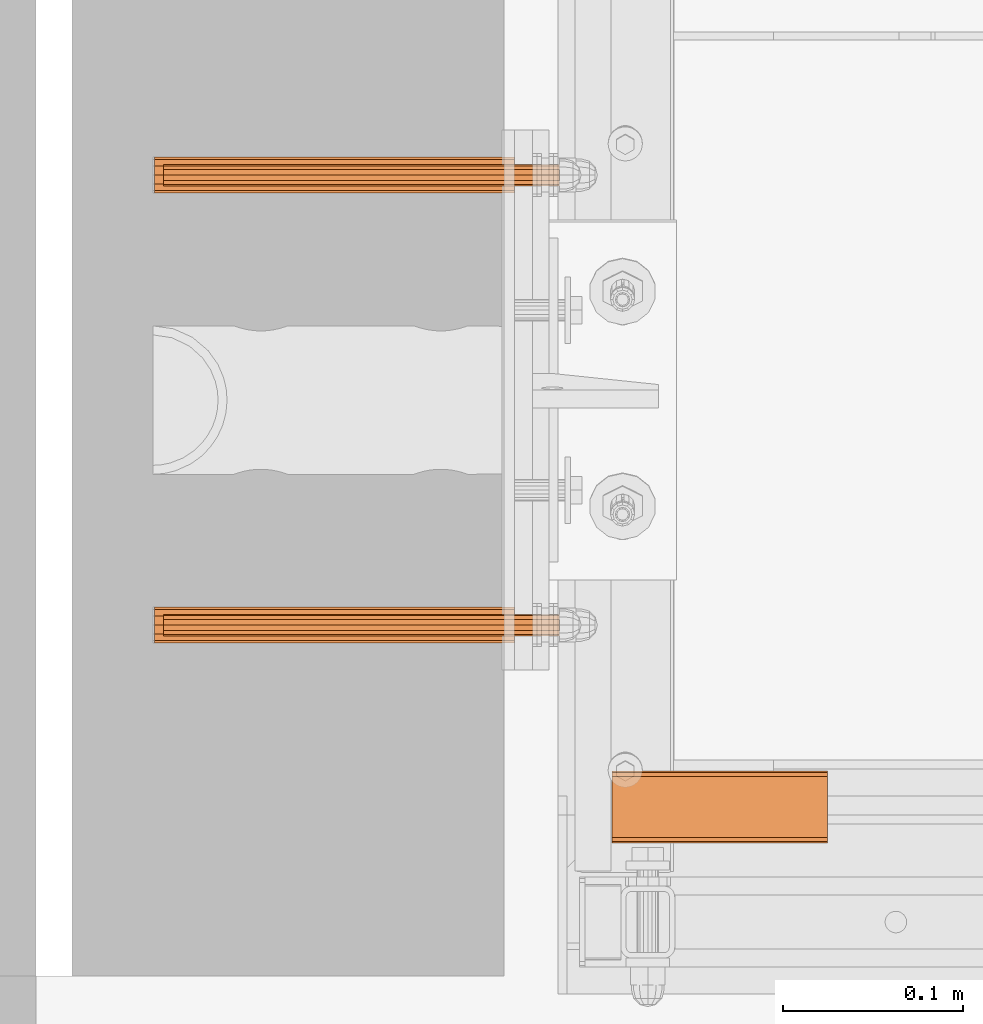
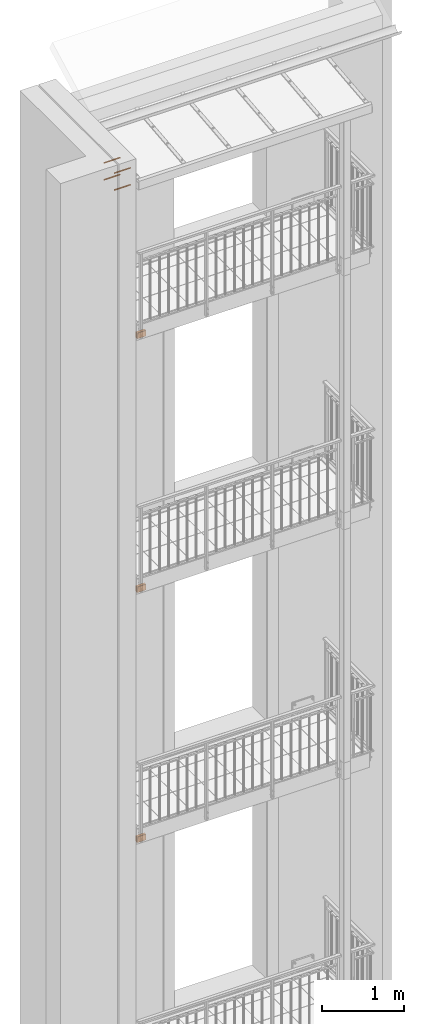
# One storey, part 78 of 162: 11 proxies.
"""IFC2X3 building model written with IfcOpenShell, lengths in millimetres."""

from ifc_helpers import new_model, entity, si_unit, converted_unit, origin_with_axes, place, context, project, spatial, faceted_brep, material, element, save


model = new_model("IFC2X3")

# Units and contexts
model_context = context("Model", 3, precision=1e-09, world=origin_with_axes())
ifc_project = project(units=[si_unit("LENGTHUNIT", "METRE", prefix="MILLI"), si_unit("AREAUNIT", "SQUARE_METRE"), si_unit("VOLUMEUNIT", "CUBIC_METRE"), converted_unit("PLANEANGLEUNIT", "DEGREE", entity("IfcPlaneAngleMeasure", 0.01745329), si_unit("PLANEANGLEUNIT", "RADIAN"), dimensions=[0, 0, 0, 0, 0, 0, 0])], contexts=[model_context])

# Site, building, storey
site_placement = place(None, origin_with_axes())
site = spatial("IfcSite", under=ifc_project, at=site_placement, Name="Hermannstra?e 1a, 60318 Frankfurt", CompositionType="ELEMENT")
building_placement = place(site_placement, origin_with_axes())
building = spatial("IfcBuilding", under=site, at=building_placement, Name="Struktur 1", CompositionType="ELEMENT")
storey_placement = place(building_placement, origin_with_axes())
storey = spatial("IfcBuildingStorey", under=building, at=storey_placement, Name="Default Storey", CompositionType="ELEMENT", Elevation=0.0)

# Proxies
ifc_material_1 = material(Name="Alu")
proxy_1_placement = place(None, origin_with_axes())
element("IfcBuildingElementProxy", 1, at=proxy_1_placement, inside=storey, material=ifc_material_1, ObjectType="-", context=model_context, shape_type="Brep", body=[
    faceted_brep([(2703.30936482, 1596.609373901, 7555.803847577), (2703.30936482, 1598.805526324, 7558.0), (2703.30936482, 1599.609373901, 7561.0), (2703.30936482, 1599.609373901, 7639.0), (2703.30936482, 1598.805526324, 7642.0), (2703.30936482, 1596.609373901, 7644.196152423), (2703.30936482, 1593.609373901, 7645.0), (2703.30936482, 1565.609373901, 7645.0), (2703.30936482, 1562.609373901, 7644.196152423), (2703.30936482, 1560.413221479, 7642.0), (2703.30936482, 1559.609373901, 7639.0), (2703.30936482, 1559.609373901, 7561.0), (2703.30936482, 1560.413221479, 7558.0), (2703.30936482, 1562.609373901, 7555.803847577), (2703.30936482, 1565.609373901, 7555.0), (2703.30936482, 1593.609373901, 7555.0), (2703.30936482, 1596.609373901, 7561.0), (2703.30936482, 1596.207450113, 7559.5), (2703.30936482, 1595.109373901, 7558.401923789), (2703.30936482, 1593.609373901, 7558.0), (2703.30936482, 1565.609373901, 7558.0), (2703.30936482, 1564.109373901, 7558.401923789), (2703.30936482, 1563.01129769, 7559.5), (2703.30936482, 1562.609373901, 7561.0), (2703.30936482, 1562.609373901, 7639.0), (2703.30936482, 1563.01129769, 7640.5), (2703.30936482, 1564.109373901, 7641.598076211), (2703.30936482, 1565.609373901, 7642.0), (2703.30936482, 1593.609373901, 7642.0), (2703.30936482, 1595.109373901, 7641.598076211), (2703.30936482, 1596.207450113, 7640.5), (2703.30936482, 1596.609373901, 7639.0), (2583.30936482, 1596.609373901, 7561.0), (2583.30936482, 1596.207450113, 7559.5), (2583.30936482, 1599.609373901, 7561.0), (2583.30936482, 1598.805526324, 7558.0), (2583.30936482, 1598.805526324, 7642.0), (2583.30936482, 1599.609373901, 7639.0), (2583.30936482, 1596.609373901, 7555.803847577), (2583.30936482, 1593.609373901, 7555.0), (2583.30936482, 1565.609373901, 7555.0), (2583.30936482, 1562.609373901, 7555.803847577), (2583.30936482, 1560.413221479, 7558.0), (2583.30936482, 1559.609373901, 7561.0), (2583.30936482, 1559.609373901, 7639.0), (2583.30936482, 1560.413221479, 7642.0), (2583.30936482, 1562.609373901, 7644.196152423), (2583.30936482, 1565.609373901, 7645.0), (2583.30936482, 1593.609373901, 7645.0), (2583.30936482, 1596.609373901, 7644.196152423), (2583.30936482, 1596.609373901, 7639.0), (2583.30936482, 1596.207450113, 7640.5), (2583.30936482, 1595.109373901, 7641.598076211), (2583.30936482, 1593.609373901, 7642.0), (2583.30936482, 1565.609373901, 7642.0), (2583.30936482, 1564.109373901, 7641.598076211), (2583.30936482, 1563.01129769, 7640.5), (2583.30936482, 1562.609373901, 7639.0), (2583.30936482, 1562.609373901, 7561.0), (2583.30936482, 1563.01129769, 7559.5), (2583.30936482, 1564.109373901, 7558.401923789), (2583.30936482, 1565.609373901, 7558.0), (2583.30936482, 1593.609373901, 7558.0), (2583.30936482, 1595.109373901, 7558.401923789)], [[[0, 1, 2, 3, 4, 5, 6, 7, 8, 9, 10, 11, 12, 13, 14, 15], [16, 17, 18, 19, 20, 21, 22, 23, 24, 25, 26, 27, 28, 29, 30, 31]], [[16, 32, 33, 17]], [[34, 2, 1, 35]], [[36, 37, 34, 35, 38, 39, 40, 41, 42, 43, 44, 45, 46, 47, 48, 49], [50, 51, 52, 53, 54, 55, 56, 57, 58, 59, 60, 61, 62, 63, 33, 32]], [[16, 31, 50, 32]], [[34, 37, 3, 2]], [[3, 37, 36, 4]], [[17, 33, 63, 18]], [[35, 1, 0, 38]], [[50, 31, 30, 51]], [[4, 36, 49, 5]], [[18, 63, 62, 19]], [[38, 0, 15, 39]], [[51, 30, 29, 52]], [[5, 49, 48, 6]], [[62, 61, 20, 19]], [[15, 14, 40, 39]], [[52, 29, 28, 53]], [[48, 47, 7, 6]], [[28, 27, 54, 53]], [[20, 61, 60, 21]], [[40, 14, 13, 41]], [[7, 47, 46, 8]], [[54, 27, 26, 55]], [[21, 60, 59, 22]], [[41, 13, 12, 42]], [[11, 43, 42, 12]], [[8, 46, 45, 9]], [[55, 26, 25, 56]], [[22, 59, 58, 23]], [[11, 10, 44, 43]], [[24, 57, 56, 25]], [[24, 23, 58, 57]], [[9, 45, 44, 10]]]),
])
proxy_2_placement = place(None, origin_with_axes())
element("IfcBuildingElementProxy", 2, at=proxy_2_placement, inside=storey, material=ifc_material_1, ObjectType="-", context=model_context, shape_type="Brep", body=[
    faceted_brep([(2703.30936482, 1596.609373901, 11255.802847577), (2703.30936482, 1598.805526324, 11257.999), (2703.30936482, 1599.609373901, 11260.999), (2703.30936482, 1599.609373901, 11338.999), (2703.30936482, 1598.805526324, 11341.999), (2703.30936482, 1596.609373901, 11344.195152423), (2703.30936482, 1593.609373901, 11344.999), (2703.30936482, 1565.609373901, 11344.999), (2703.30936482, 1562.609373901, 11344.195152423), (2703.30936482, 1560.413221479, 11341.999), (2703.30936482, 1559.609373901, 11338.999), (2703.30936482, 1559.609373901, 11260.999), (2703.30936482, 1560.413221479, 11257.999), (2703.30936482, 1562.609373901, 11255.802847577), (2703.30936482, 1565.609373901, 11254.999), (2703.30936482, 1593.609373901, 11254.999), (2703.30936482, 1596.609373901, 11260.999), (2703.30936482, 1596.207450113, 11259.499), (2703.30936482, 1595.109373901, 11258.400923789), (2703.30936482, 1593.609373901, 11257.999), (2703.30936482, 1565.609373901, 11257.999), (2703.30936482, 1564.109373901, 11258.400923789), (2703.30936482, 1563.01129769, 11259.499), (2703.30936482, 1562.609373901, 11260.999), (2703.30936482, 1562.609373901, 11338.999), (2703.30936482, 1563.01129769, 11340.499), (2703.30936482, 1564.109373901, 11341.597076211), (2703.30936482, 1565.609373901, 11341.999), (2703.30936482, 1593.609373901, 11341.999), (2703.30936482, 1595.109373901, 11341.597076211), (2703.30936482, 1596.207450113, 11340.499), (2703.30936482, 1596.609373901, 11338.999), (2583.30936482, 1596.609373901, 11260.999), (2583.30936482, 1596.207450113, 11259.499), (2583.30936482, 1599.609373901, 11260.999), (2583.30936482, 1598.805526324, 11257.999), (2583.30936482, 1598.805526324, 11341.999), (2583.30936482, 1599.609373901, 11338.999), (2583.30936482, 1596.609373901, 11255.802847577), (2583.30936482, 1593.609373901, 11254.999), (2583.30936482, 1565.609373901, 11254.999), (2583.30936482, 1562.609373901, 11255.802847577), (2583.30936482, 1560.413221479, 11257.999), (2583.30936482, 1559.609373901, 11260.999), (2583.30936482, 1559.609373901, 11338.999), (2583.30936482, 1560.413221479, 11341.999), (2583.30936482, 1562.609373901, 11344.195152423), (2583.30936482, 1565.609373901, 11344.999), (2583.30936482, 1593.609373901, 11344.999), (2583.30936482, 1596.609373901, 11344.195152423), (2583.30936482, 1596.609373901, 11338.999), (2583.30936482, 1596.207450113, 11340.499), (2583.30936482, 1595.109373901, 11341.597076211), (2583.30936482, 1593.609373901, 11341.999), (2583.30936482, 1565.609373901, 11341.999), (2583.30936482, 1564.109373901, 11341.597076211), (2583.30936482, 1563.01129769, 11340.499), (2583.30936482, 1562.609373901, 11338.999), (2583.30936482, 1562.609373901, 11260.999), (2583.30936482, 1563.01129769, 11259.499), (2583.30936482, 1564.109373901, 11258.400923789), (2583.30936482, 1565.609373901, 11257.999), (2583.30936482, 1593.609373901, 11257.999), (2583.30936482, 1595.109373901, 11258.400923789)], [[[0, 1, 2, 3, 4, 5, 6, 7, 8, 9, 10, 11, 12, 13, 14, 15], [16, 17, 18, 19, 20, 21, 22, 23, 24, 25, 26, 27, 28, 29, 30, 31]], [[16, 32, 33, 17]], [[34, 2, 1, 35]], [[36, 37, 34, 35, 38, 39, 40, 41, 42, 43, 44, 45, 46, 47, 48, 49], [50, 51, 52, 53, 54, 55, 56, 57, 58, 59, 60, 61, 62, 63, 33, 32]], [[16, 31, 50, 32]], [[34, 37, 3, 2]], [[3, 37, 36, 4]], [[17, 33, 63, 18]], [[35, 1, 0, 38]], [[50, 31, 30, 51]], [[4, 36, 49, 5]], [[18, 63, 62, 19]], [[38, 0, 15, 39]], [[51, 30, 29, 52]], [[5, 49, 48, 6]], [[62, 61, 20, 19]], [[15, 14, 40, 39]], [[52, 29, 28, 53]], [[48, 47, 7, 6]], [[28, 27, 54, 53]], [[20, 61, 60, 21]], [[40, 14, 13, 41]], [[7, 47, 46, 8]], [[54, 27, 26, 55]], [[21, 60, 59, 22]], [[41, 13, 12, 42]], [[11, 43, 42, 12]], [[8, 46, 45, 9]], [[55, 26, 25, 56]], [[22, 59, 58, 23]], [[11, 10, 44, 43]], [[24, 57, 56, 25]], [[24, 23, 58, 57]], [[9, 45, 44, 10]]]),
])
proxy_3_placement = place(None, origin_with_axes())
element("IfcBuildingElementProxy", 3, at=proxy_3_placement, inside=storey, material=ifc_material_1, ObjectType="-", context=model_context, shape_type="Brep", body=[
    faceted_brep([(2703.30936482, 1596.609373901, 15012.802847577), (2703.30936482, 1598.805526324, 15014.999), (2703.30936482, 1599.609373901, 15017.999), (2703.30936482, 1599.609373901, 15095.999), (2703.30936482, 1598.805526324, 15098.999), (2703.30936482, 1596.609373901, 15101.195152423), (2703.30936482, 1593.609373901, 15101.999), (2703.30936482, 1565.609373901, 15101.999), (2703.30936482, 1562.609373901, 15101.195152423), (2703.30936482, 1560.413221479, 15098.999), (2703.30936482, 1559.609373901, 15095.999), (2703.30936482, 1559.609373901, 15017.999), (2703.30936482, 1560.413221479, 15014.999), (2703.30936482, 1562.609373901, 15012.802847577), (2703.30936482, 1565.609373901, 15011.999), (2703.30936482, 1593.609373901, 15011.999), (2703.30936482, 1596.609373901, 15017.999), (2703.30936482, 1596.207450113, 15016.499), (2703.30936482, 1595.109373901, 15015.400923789), (2703.30936482, 1593.609373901, 15014.999), (2703.30936482, 1565.609373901, 15014.999), (2703.30936482, 1564.109373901, 15015.400923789), (2703.30936482, 1563.01129769, 15016.499), (2703.30936482, 1562.609373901, 15017.999), (2703.30936482, 1562.609373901, 15095.999), (2703.30936482, 1563.01129769, 15097.499), (2703.30936482, 1564.109373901, 15098.597076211), (2703.30936482, 1565.609373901, 15098.999), (2703.30936482, 1593.609373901, 15098.999), (2703.30936482, 1595.109373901, 15098.597076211), (2703.30936482, 1596.207450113, 15097.499), (2703.30936482, 1596.609373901, 15095.999), (2583.30936482, 1596.609373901, 15017.999), (2583.30936482, 1596.207450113, 15016.499), (2583.30936482, 1599.609373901, 15017.999), (2583.30936482, 1598.805526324, 15014.999), (2583.30936482, 1598.805526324, 15098.999), (2583.30936482, 1599.609373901, 15095.999), (2583.30936482, 1596.609373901, 15012.802847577), (2583.30936482, 1593.609373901, 15011.999), (2583.30936482, 1565.609373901, 15011.999), (2583.30936482, 1562.609373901, 15012.802847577), (2583.30936482, 1560.413221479, 15014.999), (2583.30936482, 1559.609373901, 15017.999), (2583.30936482, 1559.609373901, 15095.999), (2583.30936482, 1560.413221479, 15098.999), (2583.30936482, 1562.609373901, 15101.195152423), (2583.30936482, 1565.609373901, 15101.999), (2583.30936482, 1593.609373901, 15101.999), (2583.30936482, 1596.609373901, 15101.195152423), (2583.30936482, 1596.609373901, 15095.999), (2583.30936482, 1596.207450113, 15097.499), (2583.30936482, 1595.109373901, 15098.597076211), (2583.30936482, 1593.609373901, 15098.999), (2583.30936482, 1565.609373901, 15098.999), (2583.30936482, 1564.109373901, 15098.597076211), (2583.30936482, 1563.01129769, 15097.499), (2583.30936482, 1562.609373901, 15095.999), (2583.30936482, 1562.609373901, 15017.999), (2583.30936482, 1563.01129769, 15016.499), (2583.30936482, 1564.109373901, 15015.400923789), (2583.30936482, 1565.609373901, 15014.999), (2583.30936482, 1593.609373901, 15014.999), (2583.30936482, 1595.109373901, 15015.400923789)], [[[0, 1, 2, 3, 4, 5, 6, 7, 8, 9, 10, 11, 12, 13, 14, 15], [16, 17, 18, 19, 20, 21, 22, 23, 24, 25, 26, 27, 28, 29, 30, 31]], [[16, 32, 33, 17]], [[34, 2, 1, 35]], [[36, 37, 34, 35, 38, 39, 40, 41, 42, 43, 44, 45, 46, 47, 48, 49], [50, 51, 52, 53, 54, 55, 56, 57, 58, 59, 60, 61, 62, 63, 33, 32]], [[16, 31, 50, 32]], [[34, 37, 3, 2]], [[3, 37, 36, 4]], [[17, 33, 63, 18]], [[35, 1, 0, 38]], [[50, 31, 30, 51]], [[4, 36, 49, 5]], [[18, 63, 62, 19]], [[38, 0, 15, 39]], [[51, 30, 29, 52]], [[5, 49, 48, 6]], [[62, 61, 20, 19]], [[15, 14, 40, 39]], [[52, 29, 28, 53]], [[48, 47, 7, 6]], [[28, 27, 54, 53]], [[20, 61, 60, 21]], [[40, 14, 13, 41]], [[7, 47, 46, 8]], [[54, 27, 26, 55]], [[21, 60, 59, 22]], [[41, 13, 12, 42]], [[11, 43, 42, 12]], [[8, 46, 45, 9]], [[55, 26, 25, 56]], [[22, 59, 58, 23]], [[11, 10, 44, 43]], [[24, 57, 56, 25]], [[24, 23, 58, 57]], [[9, 45, 44, 10]]]),
])
ifc_material_2 = material(Name="Kunststoff")
proxy_4_placement = place(None, origin_with_axes())
element("IfcBuildingElementProxy", 4, at=proxy_4_placement, inside=storey, material=ifc_material_2, ObjectType="-", context=model_context, shape_type="Brep", body=[
    faceted_brep([(2329.30936482, 1675.610081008, 17226.385188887), (2329.30936482, 1671.94982697, 17230.045442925), (2329.30936482, 1670.610081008, 17235.045442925), (2329.30936482, 1671.94982697, 17240.045442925), (2329.30936482, 1675.610081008, 17243.705696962), (2329.30936482, 1680.610081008, 17245.045442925), (2329.30936482, 1685.610081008, 17243.705696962), (2329.30936482, 1689.270335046, 17240.045442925), (2329.30936482, 1690.610081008, 17235.045442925), (2329.30936482, 1689.270335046, 17230.045442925), (2329.30936482, 1685.610081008, 17226.385188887), (2329.30936482, 1680.610081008, 17225.045442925), (2529.30936482, 1680.610081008, 17245.045442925), (2529.30936482, 1675.610081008, 17243.705696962), (2529.30936482, 1685.610081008, 17243.705696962), (2529.30936482, 1689.270335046, 17240.045442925), (2529.30936482, 1689.270335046, 17230.045442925), (2529.30936482, 1685.610081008, 17226.385188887), (2529.30936482, 1690.610081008, 17235.045442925), (2529.30936482, 1680.610081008, 17225.045442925), (2529.30936482, 1671.94982697, 17240.045442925), (2529.30936482, 1670.610081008, 17235.045442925), (2529.30936482, 1671.94982697, 17230.045442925), (2529.30936482, 1675.610081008, 17226.385188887), (2529.30936482, 1684.860081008, 17227.684226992), (2331.30936482, 1684.860081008, 17227.684226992), (2331.30936482, 1680.610081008, 17226.545442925), (2529.30936482, 1680.610081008, 17226.545442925), (2529.30936482, 1687.97129694, 17230.795442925), (2331.30936482, 1687.97129694, 17230.795442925), (2331.30936482, 1680.610081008, 17243.545442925), (2529.30936482, 1680.610081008, 17243.545442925), (2529.30936482, 1676.360081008, 17242.406658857), (2331.30936482, 1676.360081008, 17242.406658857), (2331.30936482, 1684.860081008, 17242.406658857), (2529.30936482, 1684.860081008, 17242.406658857), (2331.30936482, 1673.248865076, 17239.295442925), (2331.30936482, 1672.110081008, 17235.045442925), (2331.30936482, 1673.248865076, 17230.795442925), (2331.30936482, 1676.360081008, 17227.684226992), (2331.30936482, 1689.110081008, 17235.045442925), (2331.30936482, 1687.97129694, 17239.295442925), (2529.30936482, 1676.360081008, 17227.684226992), (2529.30936482, 1687.97129694, 17239.295442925), (2529.30936482, 1689.110081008, 17235.045442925), (2529.30936482, 1673.248865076, 17239.295442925), (2529.30936482, 1673.248865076, 17230.795442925), (2529.30936482, 1672.110081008, 17235.045442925)], [[[0, 1, 2, 3, 4, 5, 6, 7, 8, 9, 10, 11]], [[12, 5, 4, 13]], [[14, 6, 5, 12]], [[15, 7, 6, 14]], [[9, 16, 17, 10]], [[18, 8, 7, 15]], [[10, 17, 19, 11]], [[16, 18, 15, 14, 12, 13, 20, 21, 22, 23, 19, 17]], [[8, 18, 16, 9]], [[13, 4, 3, 20]], [[11, 19, 23, 0]], [[24, 25, 26, 27]], [[25, 24, 28, 29]], [[30, 31, 32, 33]], [[31, 30, 34, 35]], [[33, 36, 37, 38, 39, 26, 25, 29, 40, 41, 34, 30]], [[20, 3, 2, 21]], [[0, 23, 22, 1]], [[27, 26, 39, 42]], [[41, 43, 35, 34]], [[40, 44, 43, 41]], [[29, 28, 44, 40]], [[21, 2, 1, 22]], [[33, 32, 45, 36]], [[42, 39, 38, 46]], [[36, 45, 47, 37]], [[46, 38, 37, 47]]]),
])
ifc_material_3 = material(Name="A4")
proxy_5_placement = place(None, origin_with_axes())
element("IfcBuildingElementProxy", 5, at=proxy_5_placement, inside=storey, material=ifc_material_3, ObjectType="-", context=model_context, shape_type="Brep", body=[
    faceted_brep([(2554.30936482, 1680.610081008, 17241.045442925), (2334.30936482, 1680.610081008, 17241.045442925), (2334.30936482, 1677.610081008, 17240.241595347), (2554.30936482, 1677.610081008, 17240.241595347), (2554.30936482, 1683.610081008, 17240.241595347), (2334.30936482, 1683.610081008, 17240.241595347), (2554.30936482, 1683.610081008, 17229.849290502), (2554.30936482, 1685.806233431, 17232.045442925), (2554.30936482, 1686.610081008, 17235.045442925), (2554.30936482, 1685.806233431, 17238.045442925), (2554.30936482, 1675.413928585, 17238.045442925), (2554.30936482, 1674.610081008, 17235.045442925), (2554.30936482, 1675.413928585, 17232.045442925), (2554.30936482, 1677.610081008, 17229.849290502), (2554.30936482, 1680.610081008, 17229.045442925), (2334.30936482, 1677.610081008, 17229.849290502), (2334.30936482, 1675.413928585, 17232.045442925), (2334.30936482, 1674.610081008, 17235.045442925), (2334.30936482, 1675.413928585, 17238.045442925), (2334.30936482, 1685.806233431, 17238.045442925), (2334.30936482, 1686.610081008, 17235.045442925), (2334.30936482, 1685.806233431, 17232.045442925), (2334.30936482, 1683.610081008, 17229.849290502), (2334.30936482, 1680.610081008, 17229.045442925)], [[[0, 1, 2, 3]], [[1, 0, 4, 5]], [[6, 7, 8, 9, 4, 0, 3, 10, 11, 12, 13, 14]], [[15, 16, 17, 18, 2, 1, 5, 19, 20, 21, 22, 23]], [[3, 2, 18, 10]], [[5, 4, 9, 19]], [[17, 11, 10, 18]], [[16, 12, 11, 17]], [[19, 9, 8, 20]], [[13, 15, 23, 14]], [[12, 16, 15, 13]], [[14, 23, 22, 6]], [[20, 8, 7, 21]], [[6, 22, 21, 7]]]),
])
proxy_6_placement = place(None, origin_with_axes())
element("IfcBuildingElementProxy", 6, at=proxy_6_placement, inside=storey, material=ifc_material_2, ObjectType="-", context=model_context, shape_type="Brep", body=[
    faceted_brep([(2329.30936482, 1925.610081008, 17226.385188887), (2329.30936482, 1921.94982697, 17230.045442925), (2329.30936482, 1920.610081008, 17235.045442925), (2329.30936482, 1921.94982697, 17240.045442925), (2329.30936482, 1925.610081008, 17243.705696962), (2329.30936482, 1930.610081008, 17245.045442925), (2329.30936482, 1935.610081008, 17243.705696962), (2329.30936482, 1939.270335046, 17240.045442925), (2329.30936482, 1940.610081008, 17235.045442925), (2329.30936482, 1939.270335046, 17230.045442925), (2329.30936482, 1935.610081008, 17226.385188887), (2329.30936482, 1930.610081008, 17225.045442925), (2529.30936482, 1930.610081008, 17245.045442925), (2529.30936482, 1925.610081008, 17243.705696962), (2529.30936482, 1935.610081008, 17243.705696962), (2529.30936482, 1939.270335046, 17240.045442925), (2529.30936482, 1939.270335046, 17230.045442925), (2529.30936482, 1935.610081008, 17226.385188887), (2529.30936482, 1940.610081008, 17235.045442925), (2529.30936482, 1930.610081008, 17225.045442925), (2529.30936482, 1921.94982697, 17240.045442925), (2529.30936482, 1920.610081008, 17235.045442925), (2529.30936482, 1921.94982697, 17230.045442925), (2529.30936482, 1925.610081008, 17226.385188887), (2529.30936482, 1934.860081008, 17227.684226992), (2331.30936482, 1934.860081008, 17227.684226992), (2331.30936482, 1930.610081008, 17226.545442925), (2529.30936482, 1930.610081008, 17226.545442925), (2529.30936482, 1937.97129694, 17230.795442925), (2331.30936482, 1937.97129694, 17230.795442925), (2331.30936482, 1930.610081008, 17243.545442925), (2529.30936482, 1930.610081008, 17243.545442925), (2529.30936482, 1926.360081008, 17242.406658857), (2331.30936482, 1926.360081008, 17242.406658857), (2331.30936482, 1934.860081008, 17242.406658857), (2529.30936482, 1934.860081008, 17242.406658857), (2331.30936482, 1923.248865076, 17239.295442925), (2331.30936482, 1922.110081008, 17235.045442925), (2331.30936482, 1923.248865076, 17230.795442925), (2331.30936482, 1926.360081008, 17227.684226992), (2331.30936482, 1939.110081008, 17235.045442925), (2331.30936482, 1937.97129694, 17239.295442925), (2529.30936482, 1926.360081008, 17227.684226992), (2529.30936482, 1937.97129694, 17239.295442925), (2529.30936482, 1939.110081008, 17235.045442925), (2529.30936482, 1923.248865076, 17239.295442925), (2529.30936482, 1923.248865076, 17230.795442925), (2529.30936482, 1922.110081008, 17235.045442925)], [[[0, 1, 2, 3, 4, 5, 6, 7, 8, 9, 10, 11]], [[12, 5, 4, 13]], [[14, 6, 5, 12]], [[15, 7, 6, 14]], [[9, 16, 17, 10]], [[18, 8, 7, 15]], [[10, 17, 19, 11]], [[16, 18, 15, 14, 12, 13, 20, 21, 22, 23, 19, 17]], [[8, 18, 16, 9]], [[13, 4, 3, 20]], [[11, 19, 23, 0]], [[24, 25, 26, 27]], [[25, 24, 28, 29]], [[30, 31, 32, 33]], [[31, 30, 34, 35]], [[33, 36, 37, 38, 39, 26, 25, 29, 40, 41, 34, 30]], [[20, 3, 2, 21]], [[0, 23, 22, 1]], [[27, 26, 39, 42]], [[41, 43, 35, 34]], [[40, 44, 43, 41]], [[29, 28, 44, 40]], [[21, 2, 1, 22]], [[33, 32, 45, 36]], [[42, 39, 38, 46]], [[36, 45, 47, 37]], [[46, 38, 37, 47]]]),
])
proxy_7_placement = place(None, origin_with_axes())
element("IfcBuildingElementProxy", 7, at=proxy_7_placement, inside=storey, material=ifc_material_3, ObjectType="-", context=model_context, shape_type="Brep", body=[
    faceted_brep([(2554.30936482, 1930.610081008, 17241.045442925), (2334.30936482, 1930.610081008, 17241.045442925), (2334.30936482, 1927.610081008, 17240.241595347), (2554.30936482, 1927.610081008, 17240.241595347), (2554.30936482, 1933.610081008, 17240.241595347), (2334.30936482, 1933.610081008, 17240.241595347), (2554.30936482, 1933.610081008, 17229.849290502), (2554.30936482, 1935.806233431, 17232.045442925), (2554.30936482, 1936.610081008, 17235.045442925), (2554.30936482, 1935.806233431, 17238.045442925), (2554.30936482, 1925.413928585, 17238.045442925), (2554.30936482, 1924.610081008, 17235.045442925), (2554.30936482, 1925.413928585, 17232.045442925), (2554.30936482, 1927.610081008, 17229.849290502), (2554.30936482, 1930.610081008, 17229.045442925), (2334.30936482, 1927.610081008, 17229.849290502), (2334.30936482, 1925.413928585, 17232.045442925), (2334.30936482, 1924.610081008, 17235.045442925), (2334.30936482, 1925.413928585, 17238.045442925), (2334.30936482, 1935.806233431, 17238.045442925), (2334.30936482, 1936.610081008, 17235.045442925), (2334.30936482, 1935.806233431, 17232.045442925), (2334.30936482, 1933.610081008, 17229.849290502), (2334.30936482, 1930.610081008, 17229.045442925)], [[[0, 1, 2, 3]], [[1, 0, 4, 5]], [[6, 7, 8, 9, 4, 0, 3, 10, 11, 12, 13, 14]], [[15, 16, 17, 18, 2, 1, 5, 19, 20, 21, 22, 23]], [[3, 2, 18, 10]], [[5, 4, 9, 19]], [[17, 11, 10, 18]], [[16, 12, 11, 17]], [[19, 9, 8, 20]], [[13, 15, 23, 14]], [[12, 16, 15, 13]], [[14, 23, 22, 6]], [[20, 8, 7, 21]], [[6, 22, 21, 7]]]),
])
proxy_8_placement = place(None, origin_with_axes())
element("IfcBuildingElementProxy", 8, at=proxy_8_placement, inside=storey, material=ifc_material_3, ObjectType="-", context=model_context, shape_type="Brep", body=[
    faceted_brep([(2334.30936482, 1930.610081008, 17479.045442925), (2554.30936482, 1930.610081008, 17479.045442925), (2554.30936482, 1927.610081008, 17479.849290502), (2334.30936482, 1927.610081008, 17479.849290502), (2334.30936482, 1933.610081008, 17479.849290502), (2554.30936482, 1933.610081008, 17479.849290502), (2554.30936482, 1935.806233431, 17488.045442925), (2554.30936482, 1933.610081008, 17490.241595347), (2554.30936482, 1930.610081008, 17491.045442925), (2554.30936482, 1927.610081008, 17490.241595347), (2554.30936482, 1925.413928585, 17488.045442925), (2554.30936482, 1924.610081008, 17485.045442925), (2554.30936482, 1925.413928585, 17482.045442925), (2554.30936482, 1935.806233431, 17482.045442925), (2554.30936482, 1936.610081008, 17485.045442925), (2334.30936482, 1925.413928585, 17488.045442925), (2334.30936482, 1927.610081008, 17490.241595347), (2334.30936482, 1930.610081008, 17491.045442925), (2334.30936482, 1933.610081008, 17490.241595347), (2334.30936482, 1935.806233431, 17488.045442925), (2334.30936482, 1936.610081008, 17485.045442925), (2334.30936482, 1935.806233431, 17482.045442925), (2334.30936482, 1925.413928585, 17482.045442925), (2334.30936482, 1924.610081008, 17485.045442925)], [[[0, 1, 2, 3]], [[1, 0, 4, 5]], [[6, 7, 8, 9, 10, 11, 12, 2, 1, 5, 13, 14]], [[15, 16, 17, 18, 19, 20, 21, 4, 0, 3, 22, 23]], [[3, 2, 12, 22]], [[5, 4, 21, 13]], [[11, 23, 22, 12]], [[10, 15, 23, 11]], [[13, 21, 20, 14]], [[16, 9, 8, 17]], [[15, 10, 9, 16]], [[17, 8, 7, 18]], [[14, 20, 19, 6]], [[18, 7, 6, 19]]]),
])
proxy_9_placement = place(None, origin_with_axes())
element("IfcBuildingElementProxy", 9, at=proxy_9_placement, inside=storey, material=ifc_material_2, ObjectType="-", context=model_context, shape_type="Brep", body=[
    faceted_brep([(2329.30936482, 1921.94982697, 17490.045442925), (2329.30936482, 1925.610081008, 17493.705696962), (2329.30936482, 1930.610081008, 17495.045442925), (2329.30936482, 1935.610081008, 17493.705696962), (2329.30936482, 1939.270335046, 17490.045442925), (2329.30936482, 1940.610081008, 17485.045442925), (2329.30936482, 1939.270335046, 17480.045442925), (2329.30936482, 1935.610081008, 17476.385188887), (2329.30936482, 1930.610081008, 17475.045442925), (2329.30936482, 1925.610081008, 17476.385188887), (2329.30936482, 1921.94982697, 17480.045442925), (2329.30936482, 1920.610081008, 17485.045442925), (2529.30936482, 1930.610081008, 17475.045442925), (2529.30936482, 1925.610081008, 17476.385188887), (2529.30936482, 1935.610081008, 17476.385188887), (2529.30936482, 1939.270335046, 17480.045442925), (2529.30936482, 1939.270335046, 17490.045442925), (2529.30936482, 1935.610081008, 17493.705696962), (2529.30936482, 1940.610081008, 17485.045442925), (2529.30936482, 1930.610081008, 17495.045442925), (2529.30936482, 1925.610081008, 17493.705696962), (2529.30936482, 1921.94982697, 17490.045442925), (2529.30936482, 1920.610081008, 17485.045442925), (2529.30936482, 1921.94982697, 17480.045442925), (2529.30936482, 1934.860081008, 17492.406658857), (2529.30936482, 1937.97129694, 17489.295442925), (2529.30936482, 1939.110081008, 17485.045442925), (2529.30936482, 1937.97129694, 17480.795442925), (2529.30936482, 1934.860081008, 17477.684226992), (2529.30936482, 1930.610081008, 17476.545442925), (2529.30936482, 1926.360081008, 17477.684226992), (2529.30936482, 1923.248865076, 17480.795442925), (2529.30936482, 1922.110081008, 17485.045442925), (2529.30936482, 1923.248865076, 17489.295442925), (2529.30936482, 1926.360081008, 17492.406658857), (2529.30936482, 1930.610081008, 17493.545442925), (2331.30936482, 1934.860081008, 17492.406658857), (2331.30936482, 1930.610081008, 17493.545442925), (2331.30936482, 1937.97129694, 17489.295442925), (2331.30936482, 1930.610081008, 17476.545442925), (2331.30936482, 1926.360081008, 17477.684226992), (2331.30936482, 1934.860081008, 17477.684226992), (2331.30936482, 1923.248865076, 17480.795442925), (2331.30936482, 1937.97129694, 17480.795442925), (2331.30936482, 1939.110081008, 17485.045442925), (2331.30936482, 1926.360081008, 17492.406658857), (2331.30936482, 1923.248865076, 17489.295442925), (2331.30936482, 1922.110081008, 17485.045442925)], [[[0, 1, 2, 3, 4, 5, 6, 7, 8, 9, 10, 11]], [[8, 12, 13, 9]], [[7, 14, 12, 8]], [[6, 15, 14, 7]], [[16, 4, 3, 17]], [[5, 18, 15, 6]], [[17, 3, 2, 19]], [[18, 16, 17, 19, 20, 21, 22, 23, 13, 12, 14, 15], [24, 25, 26, 27, 28, 29, 30, 31, 32, 33, 34, 35]], [[18, 5, 4, 16]], [[9, 13, 23, 10]], [[19, 2, 1, 20]], [[36, 24, 35, 37]], [[24, 36, 38, 25]], [[29, 39, 40, 30]], [[39, 29, 28, 41]], [[42, 40, 39, 41, 43, 44, 38, 36, 37, 45, 46, 47]], [[10, 23, 22, 11]], [[20, 1, 0, 21]], [[37, 35, 34, 45]], [[27, 43, 41, 28]], [[26, 44, 43, 27]], [[25, 38, 44, 26]], [[11, 22, 21, 0]], [[30, 40, 42, 31]], [[45, 34, 33, 46]], [[31, 42, 47, 32]], [[46, 33, 32, 47]]]),
])
proxy_10_placement = place(None, origin_with_axes())
element("IfcBuildingElementProxy", 10, at=proxy_10_placement, inside=storey, material=ifc_material_3, ObjectType="-", context=model_context, shape_type="Brep", body=[
    faceted_brep([(2334.30936482, 1680.610081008, 17479.045442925), (2554.30936482, 1680.610081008, 17479.045442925), (2554.30936482, 1677.610081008, 17479.849290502), (2334.30936482, 1677.610081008, 17479.849290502), (2334.30936482, 1683.610081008, 17479.849290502), (2554.30936482, 1683.610081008, 17479.849290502), (2554.30936482, 1685.806233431, 17488.045442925), (2554.30936482, 1683.610081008, 17490.241595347), (2554.30936482, 1680.610081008, 17491.045442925), (2554.30936482, 1677.610081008, 17490.241595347), (2554.30936482, 1675.413928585, 17488.045442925), (2554.30936482, 1674.610081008, 17485.045442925), (2554.30936482, 1675.413928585, 17482.045442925), (2554.30936482, 1685.806233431, 17482.045442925), (2554.30936482, 1686.610081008, 17485.045442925), (2334.30936482, 1675.413928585, 17488.045442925), (2334.30936482, 1677.610081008, 17490.241595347), (2334.30936482, 1680.610081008, 17491.045442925), (2334.30936482, 1683.610081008, 17490.241595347), (2334.30936482, 1685.806233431, 17488.045442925), (2334.30936482, 1686.610081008, 17485.045442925), (2334.30936482, 1685.806233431, 17482.045442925), (2334.30936482, 1675.413928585, 17482.045442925), (2334.30936482, 1674.610081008, 17485.045442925)], [[[0, 1, 2, 3]], [[1, 0, 4, 5]], [[6, 7, 8, 9, 10, 11, 12, 2, 1, 5, 13, 14]], [[15, 16, 17, 18, 19, 20, 21, 4, 0, 3, 22, 23]], [[3, 2, 12, 22]], [[5, 4, 21, 13]], [[11, 23, 22, 12]], [[10, 15, 23, 11]], [[13, 21, 20, 14]], [[16, 9, 8, 17]], [[15, 10, 9, 16]], [[17, 8, 7, 18]], [[14, 20, 19, 6]], [[18, 7, 6, 19]]]),
])
proxy_11_placement = place(None, origin_with_axes())
element("IfcBuildingElementProxy", 11, at=proxy_11_placement, inside=storey, material=ifc_material_2, ObjectType="-", context=model_context, shape_type="Brep", body=[
    faceted_brep([(2329.30936482, 1671.94982697, 17490.045442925), (2329.30936482, 1675.610081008, 17493.705696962), (2329.30936482, 1680.610081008, 17495.045442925), (2329.30936482, 1685.610081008, 17493.705696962), (2329.30936482, 1689.270335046, 17490.045442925), (2329.30936482, 1690.610081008, 17485.045442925), (2329.30936482, 1689.270335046, 17480.045442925), (2329.30936482, 1685.610081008, 17476.385188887), (2329.30936482, 1680.610081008, 17475.045442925), (2329.30936482, 1675.610081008, 17476.385188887), (2329.30936482, 1671.94982697, 17480.045442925), (2329.30936482, 1670.610081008, 17485.045442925), (2529.30936482, 1680.610081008, 17475.045442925), (2529.30936482, 1675.610081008, 17476.385188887), (2529.30936482, 1685.610081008, 17476.385188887), (2529.30936482, 1689.270335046, 17480.045442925), (2529.30936482, 1689.270335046, 17490.045442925), (2529.30936482, 1685.610081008, 17493.705696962), (2529.30936482, 1690.610081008, 17485.045442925), (2529.30936482, 1680.610081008, 17495.045442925), (2529.30936482, 1675.610081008, 17493.705696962), (2529.30936482, 1671.94982697, 17490.045442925), (2529.30936482, 1670.610081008, 17485.045442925), (2529.30936482, 1671.94982697, 17480.045442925), (2529.30936482, 1684.860081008, 17492.406658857), (2529.30936482, 1687.97129694, 17489.295442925), (2529.30936482, 1689.110081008, 17485.045442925), (2529.30936482, 1687.97129694, 17480.795442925), (2529.30936482, 1684.860081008, 17477.684226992), (2529.30936482, 1680.610081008, 17476.545442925), (2529.30936482, 1676.360081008, 17477.684226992), (2529.30936482, 1673.248865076, 17480.795442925), (2529.30936482, 1672.110081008, 17485.045442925), (2529.30936482, 1673.248865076, 17489.295442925), (2529.30936482, 1676.360081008, 17492.406658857), (2529.30936482, 1680.610081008, 17493.545442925), (2331.30936482, 1684.860081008, 17492.406658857), (2331.30936482, 1680.610081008, 17493.545442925), (2331.30936482, 1687.97129694, 17489.295442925), (2331.30936482, 1680.610081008, 17476.545442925), (2331.30936482, 1676.360081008, 17477.684226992), (2331.30936482, 1684.860081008, 17477.684226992), (2331.30936482, 1673.248865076, 17480.795442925), (2331.30936482, 1687.97129694, 17480.795442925), (2331.30936482, 1689.110081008, 17485.045442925), (2331.30936482, 1676.360081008, 17492.406658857), (2331.30936482, 1673.248865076, 17489.295442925), (2331.30936482, 1672.110081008, 17485.045442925)], [[[0, 1, 2, 3, 4, 5, 6, 7, 8, 9, 10, 11]], [[8, 12, 13, 9]], [[7, 14, 12, 8]], [[6, 15, 14, 7]], [[16, 4, 3, 17]], [[5, 18, 15, 6]], [[17, 3, 2, 19]], [[18, 16, 17, 19, 20, 21, 22, 23, 13, 12, 14, 15], [24, 25, 26, 27, 28, 29, 30, 31, 32, 33, 34, 35]], [[18, 5, 4, 16]], [[9, 13, 23, 10]], [[19, 2, 1, 20]], [[36, 24, 35, 37]], [[24, 36, 38, 25]], [[29, 39, 40, 30]], [[39, 29, 28, 41]], [[42, 40, 39, 41, 43, 44, 38, 36, 37, 45, 46, 47]], [[10, 23, 22, 11]], [[20, 1, 0, 21]], [[37, 35, 34, 45]], [[27, 43, 41, 28]], [[26, 44, 43, 27]], [[25, 38, 44, 26]], [[11, 22, 21, 0]], [[30, 40, 42, 31]], [[45, 34, 33, 46]], [[31, 42, 47, 32]], [[46, 33, 32, 47]]]),
])

save(model, "model.ifc")
